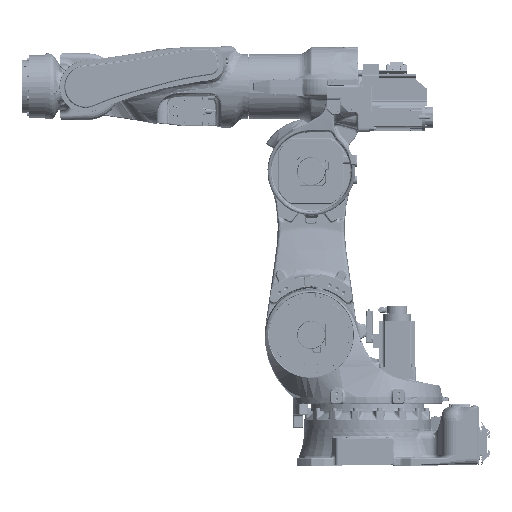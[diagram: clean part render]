
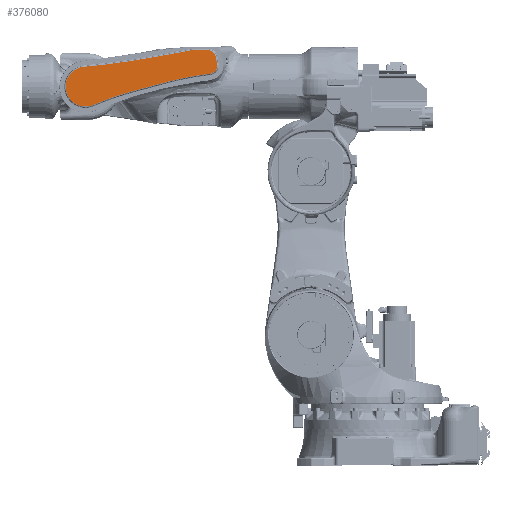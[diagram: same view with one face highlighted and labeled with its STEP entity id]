
A CAD part, left-side view. The second image highlights one B-rep face of the part: STEP entity #376080.
In plain terms, the highlighted planar face has unit normal (-1, 0, 0).
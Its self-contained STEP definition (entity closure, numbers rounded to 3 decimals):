
#375595=CARTESIAN_POINT('Vertex',(-158.,6.663,70.018)) ;
#375602=CARTESIAN_POINT('Vertex',(-158.,-28.128,-64.465)) ;
#375605=CARTESIAN_POINT('Axis2P3D Location',(-158.,0.,0.)) ;
#375626=CARTESIAN_POINT('Vertex',(-158.,-169.743,-14.91)) ;
#375629=CARTESIAN_POINT('Axis2P3D Location',(-158.,-429.511,-984.376)) ;
#375650=CARTESIAN_POINT('Vertex',(-158.,-292.25,17.916)) ;
#375653=CARTESIAN_POINT('Line Origine',(-158.,-197.976,-7.345)) ;
#375674=CARTESIAN_POINT('Vertex',(-158.,-419.271,43.297)) ;
#375677=CARTESIAN_POINT('Axis2P3D Location',(-158.,-552.017,-951.551)) ;
#375698=CARTESIAN_POINT('Vertex',(-158.,-441.417,46.087)) ;
#375701=CARTESIAN_POINT('Axis2P3D Location',(-158.,-620.529,-1465.)) ;
#375802=CARTESIAN_POINT('Vertex',(-158.,-466.548,79.901)) ;
#375806=CARTESIAN_POINT('Control Point',(-158.,-441.417,46.087)) ;
#375807=CARTESIAN_POINT('Control Point',(-158.,-441.912,46.146)) ;
#375808=CARTESIAN_POINT('Control Point',(-158.,-442.405,46.215)) ;
#375809=CARTESIAN_POINT('Control Point',(-158.,-442.897,46.295)) ;
#375810=CARTESIAN_POINT('Control Point',(-158.,-445.837,46.837)) ;
#375811=CARTESIAN_POINT('Control Point',(-158.,-448.7,47.756)) ;
#375812=CARTESIAN_POINT('Control Point',(-158.,-450.994,48.777)) ;
#375813=CARTESIAN_POINT('Control Point',(-158.,-455.325,51.293)) ;
#375814=CARTESIAN_POINT('Control Point',(-158.,-459.023,54.673)) ;
#375815=CARTESIAN_POINT('Control Point',(-158.,-460.682,56.555)) ;
#375816=CARTESIAN_POINT('Control Point',(-158.,-463.569,60.646)) ;
#375817=CARTESIAN_POINT('Control Point',(-158.,-465.522,65.256)) ;
#375818=CARTESIAN_POINT('Control Point',(-158.,-466.246,67.658)) ;
#375819=CARTESIAN_POINT('Control Point',(-158.,-466.977,71.568)) ;
#375820=CARTESIAN_POINT('Control Point',(-158.,-467.037,75.53)) ;
#375821=CARTESIAN_POINT('Control Point',(-158.,-466.966,76.998)) ;
#375822=CARTESIAN_POINT('Control Point',(-158.,-466.802,78.457)) ;
#375823=CARTESIAN_POINT('Control Point',(-158.,-466.548,79.901)) ;
#375841=CARTESIAN_POINT('Vertex',(-158.,-462.054,105.385)) ;
#375844=CARTESIAN_POINT('Line Origine',(-158.,-475.458,29.368)) ;
#375945=CARTESIAN_POINT('Vertex',(-158.,-433.512,129.335)) ;
#375949=CARTESIAN_POINT('Control Point',(-158.,-462.054,105.385)) ;
#375950=CARTESIAN_POINT('Control Point',(-158.,-461.881,106.366)) ;
#375951=CARTESIAN_POINT('Control Point',(-158.,-461.666,107.339)) ;
#375952=CARTESIAN_POINT('Control Point',(-158.,-461.41,108.303)) ;
#375953=CARTESIAN_POINT('Control Point',(-158.,-460.219,112.108)) ;
#375954=CARTESIAN_POINT('Control Point',(-158.,-458.384,115.681)) ;
#375955=CARTESIAN_POINT('Control Point',(-158.,-456.668,118.168)) ;
#375956=CARTESIAN_POINT('Control Point',(-158.,-452.635,122.642)) ;
#375957=CARTESIAN_POINT('Control Point',(-158.,-447.6,125.948)) ;
#375958=CARTESIAN_POINT('Control Point',(-158.,-444.882,127.265)) ;
#375959=CARTESIAN_POINT('Control Point',(-158.,-440.95,128.576)) ;
#375960=CARTESIAN_POINT('Control Point',(-158.,-436.879,129.172)) ;
#375961=CARTESIAN_POINT('Control Point',(-158.,-435.759,129.28)) ;
#375962=CARTESIAN_POINT('Control Point',(-158.,-434.636,129.335)) ;
#375963=CARTESIAN_POINT('Control Point',(-158.,-433.512,129.335)) ;
#375981=CARTESIAN_POINT('Vertex',(-158.,-381.979,129.335)) ;
#375984=CARTESIAN_POINT('Line Origine',(-158.,-197.976,129.335)) ;
#376005=CARTESIAN_POINT('Vertex',(-158.,-373.535,128.559)) ;
#376008=CARTESIAN_POINT('Axis2P3D Location',(-158.,-381.979,83.)) ;
#376029=CARTESIAN_POINT('Vertex',(-158.,-256.178,106.808)) ;
#376032=CARTESIAN_POINT('Line Origine',(-158.,-197.976,96.021)) ;
#376049=CARTESIAN_POINT('Axis2P3D Location',(-158.,291.197,3060.177)) ;
#376061=CARTESIAN_POINT('Axis2P3D Location',(-158.,0.,0.)) ;
#375606=DIRECTION('Axis2P3D Direction',(1.,0.,0.)) ;
#375630=DIRECTION('Axis2P3D Direction',(1.,0.,0.)) ;
#375654=DIRECTION('Vector Direction',(0.,-0.966,0.259)) ;
#375678=DIRECTION('Axis2P3D Direction',(1.,0.,0.)) ;
#375702=DIRECTION('Axis2P3D Direction',(1.,0.,0.)) ;
#375845=DIRECTION('Vector Direction',(0.,-0.174,-0.985)) ;
#375985=DIRECTION('Vector Direction',(0.,-1.,0.)) ;
#376009=DIRECTION('Axis2P3D Direction',(1.,0.,0.)) ;
#376033=DIRECTION('Vector Direction',(0.,0.983,-0.182)) ;
#376050=DIRECTION('Axis2P3D Direction',(1.,0.,0.)) ;
#376062=DIRECTION('Axis2P3D Direction',(1.,0.,0.)) ;
#376063=DIRECTION('Axis2P3D XDirection',(0.,1.,0.)) ;
#375607=AXIS2_PLACEMENT_3D('Circle Axis2P3D',#375605,#375606,$) ;
#375631=AXIS2_PLACEMENT_3D('Circle Axis2P3D',#375629,#375630,$) ;
#375679=AXIS2_PLACEMENT_3D('Circle Axis2P3D',#375677,#375678,$) ;
#375703=AXIS2_PLACEMENT_3D('Circle Axis2P3D',#375701,#375702,$) ;
#376010=AXIS2_PLACEMENT_3D('Circle Axis2P3D',#376008,#376009,$) ;
#376051=AXIS2_PLACEMENT_3D('Circle Axis2P3D',#376049,#376050,$) ;
#376064=AXIS2_PLACEMENT_3D('Plane Axis2P3D',#376061,#376062,#376063) ;
#376067=ORIENTED_EDGE('',*,*,#375609,.T.) ;
#376068=ORIENTED_EDGE('',*,*,#375633,.T.) ;
#376069=ORIENTED_EDGE('',*,*,#375657,.T.) ;
#376070=ORIENTED_EDGE('',*,*,#375681,.T.) ;
#376071=ORIENTED_EDGE('',*,*,#375705,.T.) ;
#376072=ORIENTED_EDGE('',*,*,#375824,.T.) ;
#376073=ORIENTED_EDGE('',*,*,#375848,.T.) ;
#376074=ORIENTED_EDGE('',*,*,#375964,.T.) ;
#376075=ORIENTED_EDGE('',*,*,#375988,.T.) ;
#376076=ORIENTED_EDGE('',*,*,#376012,.T.) ;
#376077=ORIENTED_EDGE('',*,*,#376036,.T.) ;
#376078=ORIENTED_EDGE('',*,*,#376053,.T.) ;
#375655=VECTOR('Line Direction',#375654,1.) ;
#375846=VECTOR('Line Direction',#375845,1.) ;
#375986=VECTOR('Line Direction',#375985,1.) ;
#376034=VECTOR('Line Direction',#376033,1.) ;
#376080=ADVANCED_FACE('COVER',(#376079),#376065,.F.) ;
#375805=B_SPLINE_CURVE_WITH_KNOTS('',5,(#375806,#375807,#375808,#375809,#375810,#375811,#375812,#375813,#375814,#375815,#375816,#375817,#375818,#375819,#375820,#375821,#375822,#375823),.UNSPECIFIED.,.F.,.U.,(6,3,3,3,3,6),(11.418,14.43,29.49,44.531,59.574,68.436),.UNSPECIFIED.) ;
#375948=B_SPLINE_CURVE_WITH_KNOTS('',5,(#375949,#375950,#375951,#375952,#375953,#375954,#375955,#375956,#375957,#375958,#375959,#375960,#375961,#375962,#375963),.UNSPECIFIED.,.F.,.U.,(6,3,3,3,6),(105.606,113.022,135.266,157.506,165.869),.UNSPECIFIED.) ;
#375608=CIRCLE('generated circle',#375607,70.335) ;
#375632=CIRCLE('generated circle',#375631,1003.665) ;
#375680=CIRCLE('generated circle',#375679,1003.665) ;
#375704=CIRCLE('generated circle',#375703,1521.665) ;
#376011=CIRCLE('generated circle',#376010,46.335) ;
#376052=CIRCLE('generated circle',#376051,3003.665) ;
#375609=EDGE_CURVE('',#375596,#375603,#375608,.F.) ;
#375633=EDGE_CURVE('',#375603,#375627,#375632,.T.) ;
#375657=EDGE_CURVE('',#375627,#375651,#375656,.T.) ;
#375681=EDGE_CURVE('',#375651,#375675,#375680,.T.) ;
#375705=EDGE_CURVE('',#375675,#375699,#375704,.T.) ;
#375824=EDGE_CURVE('',#375699,#375803,#375805,.T.) ;
#375848=EDGE_CURVE('',#375803,#375842,#375847,.F.) ;
#375964=EDGE_CURVE('',#375842,#375946,#375948,.T.) ;
#375988=EDGE_CURVE('',#375946,#375982,#375987,.F.) ;
#376012=EDGE_CURVE('',#375982,#376006,#376011,.F.) ;
#376036=EDGE_CURVE('',#376006,#376030,#376035,.T.) ;
#376053=EDGE_CURVE('',#376030,#375596,#376052,.T.) ;
#376066=EDGE_LOOP('',(#376067,#376068,#376069,#376070,#376071,#376072,#376073,#376074,#376075,#376076,#376077,#376078)) ;
#376079=FACE_OUTER_BOUND('',#376066,.T.) ;
#375656=LINE('Line',#375653,#375655) ;
#375847=LINE('Line',#375844,#375846) ;
#375987=LINE('Line',#375984,#375986) ;
#376035=LINE('Line',#376032,#376034) ;
#376065=PLANE('',#376064) ;
#375596=VERTEX_POINT('',#375595) ;
#375603=VERTEX_POINT('',#375602) ;
#375627=VERTEX_POINT('',#375626) ;
#375651=VERTEX_POINT('',#375650) ;
#375675=VERTEX_POINT('',#375674) ;
#375699=VERTEX_POINT('',#375698) ;
#375803=VERTEX_POINT('',#375802) ;
#375842=VERTEX_POINT('',#375841) ;
#375946=VERTEX_POINT('',#375945) ;
#375982=VERTEX_POINT('',#375981) ;
#376006=VERTEX_POINT('',#376005) ;
#376030=VERTEX_POINT('',#376029) ;
